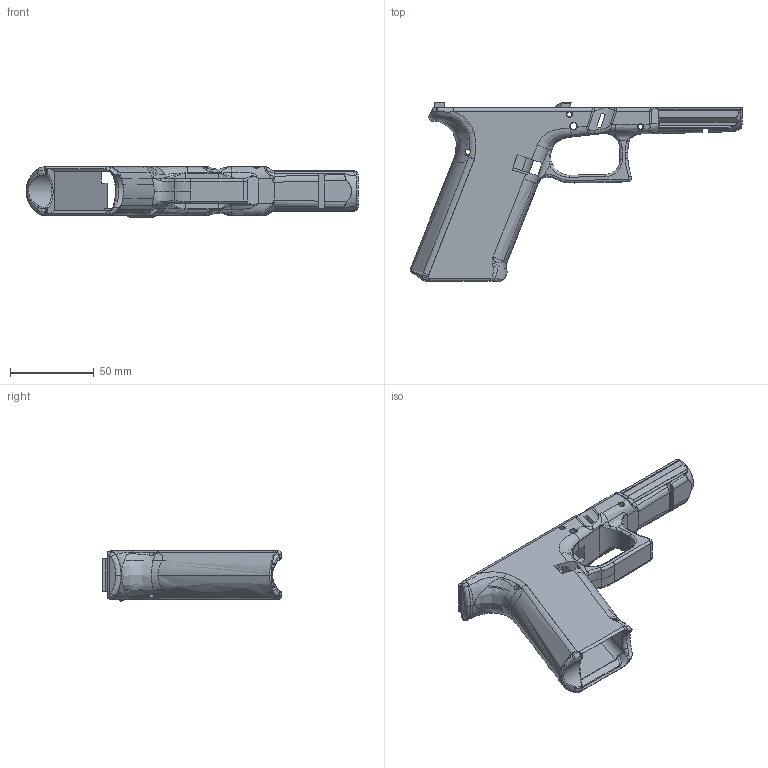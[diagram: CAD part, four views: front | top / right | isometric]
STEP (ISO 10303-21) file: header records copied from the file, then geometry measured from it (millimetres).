
FILE_DESCRIPTION(/* description */ (''),/* implementation_level */ '2;1');
FILE_NAME(/* name */ 'D:\~~GatCad\FMDA DD17.2\STEP\FMDA DD17.2 V1.4 Frame.stp',/* time_stamp */ '2020-12-27T21:57:02-06:00',/* author */ ('johne'),/* organization */ (''),/* preprocessor_version */ 'ST-DEVELOPER v18',/* originating_system */ 'Autodesk Inventor 2020',/* authorisation */ '');
FILE_SCHEMA (('AUTOMOTIVE_DESIGN { 1 0 10303 214 3 1 1 }'));
Products named in the file (1): Part66 no thumbs
Bounding box: 197.63 x 106.5 x 29.84 mm (x, y, z)
Volume: 86049.5 mm3; surface area: 47066.5 mm2
Topology: 1 solids, 3 shells, 664 faces, 1873 edges, 1183 vertices
Faces by surface type: bspline 295, plane 184, cylinder 136, torus 21, sphere 16, cone 12
Full cylindrical faces by diameter (mm): 2 x1, 3 x4, 3.2 x2, 4 x2
Entity records: 51698 total; most frequent: CARTESIAN_POINT 36412, ORIENTED_EDGE 3728, DIRECTION 2500, EDGE_CURVE 1864, VERTEX_POINT 1186, AXIS2_PLACEMENT_3D 911, LINE 678, VECTOR 678
